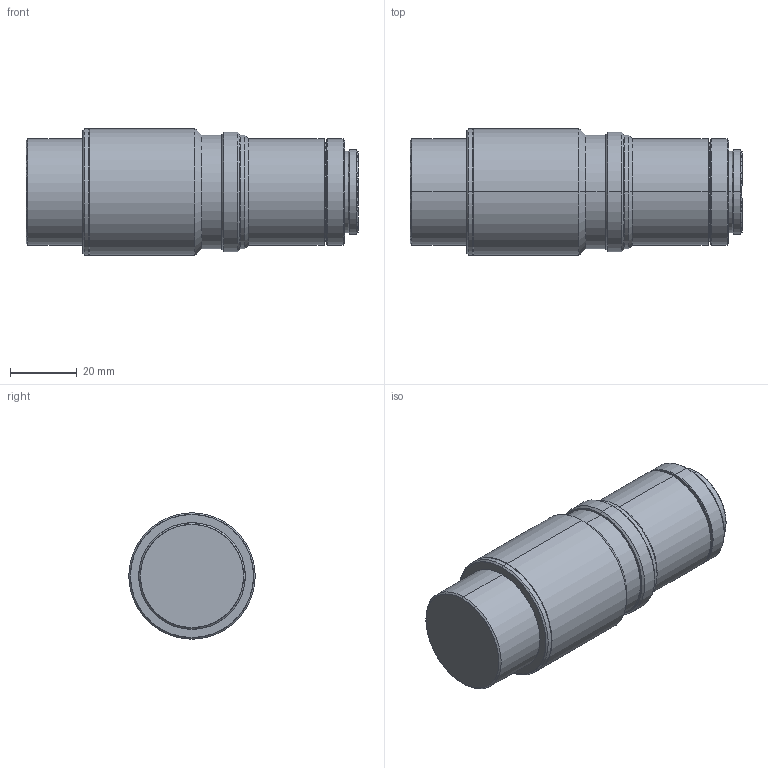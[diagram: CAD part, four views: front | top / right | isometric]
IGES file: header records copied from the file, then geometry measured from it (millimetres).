
Start section: SolidWorks IGES file using analytic representation for surfaces
Bounding box: 99.8 x 38 x 38 mm (x, y, z)
Surface area: 13093.8 mm2 (no closed solid volume)
Topology: 0 solids, 0 shells, 64 faces, 1056 edges, 1056 vertices
Faces by surface type: revolution 56, bspline 8
